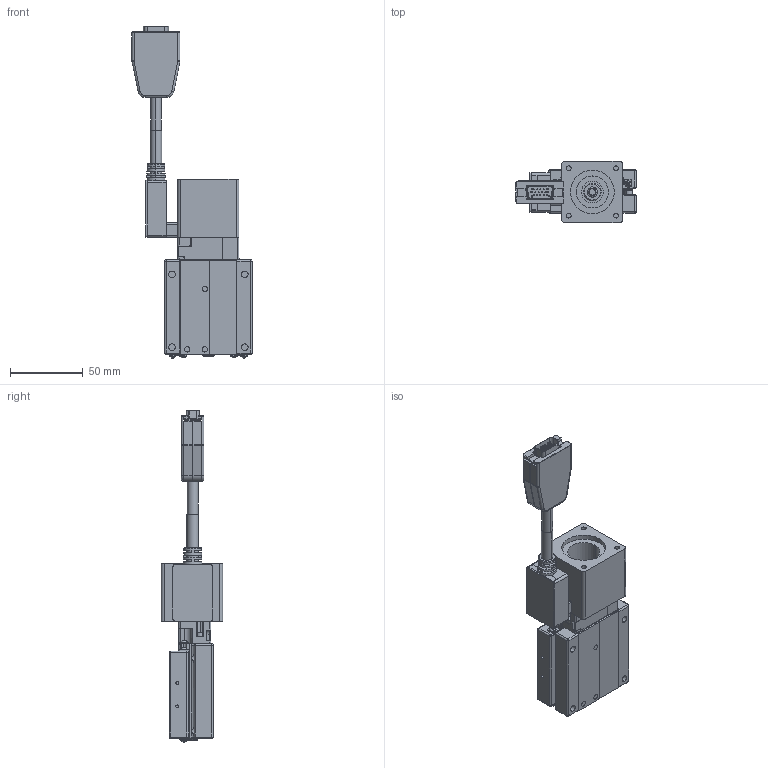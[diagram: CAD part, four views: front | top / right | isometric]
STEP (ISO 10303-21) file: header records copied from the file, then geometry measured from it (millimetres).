
FILE_DESCRIPTION (( 'STEP AP203' ), '1' );
FILE_NAME ('CXS6020(伺服無馬達PCD46).STEP', '2023-11-30T08:01:45', ( '' ), ( '' ), 'SwSTEP 2.0', 'SolidWorks 2019', '' );
FILE_SCHEMA (( 'CONFIG_CONTROL_DESIGN' ));
Products named in the file (3): Group2^CXS6020(伺服無馬達PCD46)_defeature_GMT; CXS6020(伺服無馬達PCD46); Group3^CXS6020(伺服無馬達PCD46)_defeature_GMT
Assembly tree (2 placements, depth 2):
  CXS6020(伺服無馬達PCD46)
    Group2^CXS6020(伺服無馬達PCD46)_defeature_GMT
    Group3^CXS6020(伺服無馬達PCD46)_defeature_GMT
Bounding box: 82.5 x 42 x 228.01 mm (x, y, z)
Volume: 175754.6 mm3; surface area: 70104 mm2
Topology: 7 solids, 8 shells, 5038 faces, 12871 edges, 8092 vertices
Faces by surface type: plane 2705, bspline 1173, cylinder 844, cone 143, sphere 118, torus 55
Entity records: 168599 total; most frequent: CARTESIAN_POINT 56195, ORIENTED_EDGE 25542, DIRECTION 19016, EDGE_CURVE 12771, VERTEX_POINT 8092, VECTOR 7316, LINE 7316, AXIS2_PLACEMENT_3D 5850
